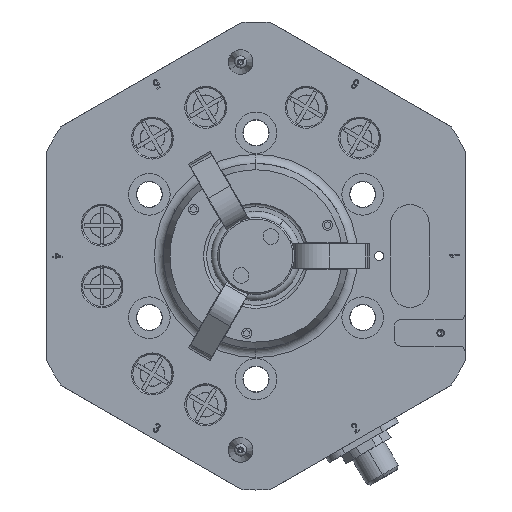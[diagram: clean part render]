
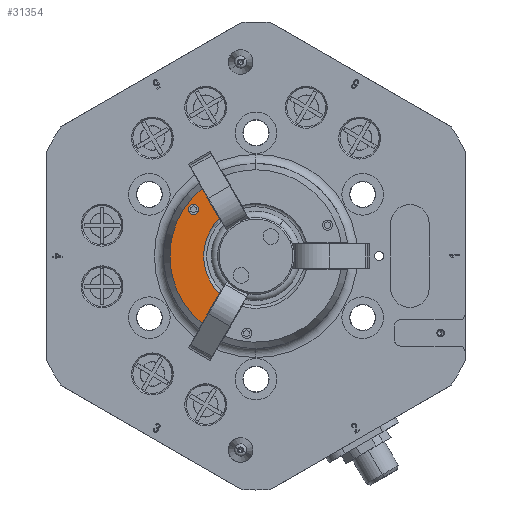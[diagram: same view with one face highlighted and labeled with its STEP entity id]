
A CAD part, front view. The second image highlights one B-rep face of the part: STEP entity #31354.
In plain terms, the highlighted planar face has unit normal (0, -1, 0).
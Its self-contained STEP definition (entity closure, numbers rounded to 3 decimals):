
#3421 = CARTESIAN_POINT ( 'NONE',  ( 0., -33.5, 0. ) ) ;
#3943 = EDGE_CURVE ( 'NONE', #35826, #40087, #20648, .T. ) ;
#4173 = DIRECTION ( 'NONE',  ( 0., -1., 0. ) ) ;
#5696 = CARTESIAN_POINT ( 'NONE',  ( -11.911, -33.5, -12.13 ) ) ;
#8465 = DIRECTION ( 'NONE',  ( 0., 0., -1. ) ) ;
#8647 = VERTEX_POINT ( 'NONE', #68080 ) ;
#9544 = CIRCLE ( 'NONE', #48913, 1.65 ) ;
#10273 = CIRCLE ( 'NONE', #49638, 17. ) ;
#11023 = DIRECTION ( 'NONE',  ( 0., 0., -1. ) ) ;
#13274 = CARTESIAN_POINT ( 'NONE',  ( -20.288, -33.5, 16.783 ) ) ;
#14909 = DIRECTION ( 'NONE',  ( 0., -1., 0. ) ) ;
#16607 = CARTESIAN_POINT ( 'NONE',  ( -11.911, -33.5, 12.13 ) ) ;
#16849 = ORIENTED_EDGE ( 'NONE', *, *, #46202, .F. ) ;
#17982 = VERTEX_POINT ( 'NONE', #53511 ) ;
#18332 = ORIENTED_EDGE ( 'NONE', *, *, #66053, .F. ) ;
#18342 = AXIS2_PLACEMENT_3D ( 'NONE', #3421, #24895, #46376 ) ;
#19077 = LINE ( 'NONE', #40597, #40210 ) ;
#20194 = FACE_OUTER_BOUND ( 'NONE', #40449, .T. ) ;
#20648 = CIRCLE ( 'NONE', #59970, 1.65 ) ;
#22457 = VERTEX_POINT ( 'NONE', #16607 ) ;
#22957 = ORIENTED_EDGE ( 'NONE', *, *, #57058, .F. ) ;
#22974 = VERTEX_POINT ( 'NONE', #34731 ) ;
#24895 = DIRECTION ( 'NONE',  ( 0., -1., 0. ) ) ;
#25658 = DIRECTION ( 'NONE',  ( 0., 0., -1. ) ) ;
#27188 = DIRECTION ( 'NONE',  ( -0.5, 0., -0.866 ) ) ;
#31236 = EDGE_LOOP ( 'NONE', ( #69562, #22957 ) ) ;
#31354 = ADVANCED_FACE ( 'NONE', ( #68423, #20194 ), #41687, .T. ) ;
#34731 = CARTESIAN_POINT ( 'NONE',  ( -17.517, -33.5, 21.841 ) ) ;
#35090 = ORIENTED_EDGE ( 'NONE', *, *, #46065, .F. ) ;
#35226 = CARTESIAN_POINT ( 'NONE',  ( -20.288, -33.5, 15.133 ) ) ;
#35826 = VERTEX_POINT ( 'NONE', #55978 ) ;
#36406 = DIRECTION ( 'NONE',  ( 0., 0., -1. ) ) ;
#37329 = EDGE_CURVE ( 'NONE', #22974, #17982, #48730, .T. ) ;
#37808 = CARTESIAN_POINT ( 'NONE',  ( -20.288, -33.5, 15.133 ) ) ;
#40087 = VERTEX_POINT ( 'NONE', #13274 ) ;
#40210 = VECTOR ( 'NONE', #62020, 1000. ) ;
#40449 = EDGE_LOOP ( 'NONE', ( #35090, #43847, #16849, #18332 ) ) ;
#40597 = CARTESIAN_POINT ( 'NONE',  ( -11.911, -33.5, 12.13 ) ) ;
#41687 = PLANE ( 'NONE',  #65978 ) ;
#43847 = ORIENTED_EDGE ( 'NONE', *, *, #37329, .T. ) ;
#46065 = EDGE_CURVE ( 'NONE', #22974, #22457, #19077, .T. ) ;
#46202 = EDGE_CURVE ( 'NONE', #8647, #17982, #53918, .T. ) ;
#46376 = DIRECTION ( 'NONE',  ( 0., 0., -1. ) ) ;
#48076 = VECTOR ( 'NONE', #27188, 1000. ) ;
#48730 = CIRCLE ( 'NONE', #18342, 27.998 ) ;
#48913 = AXIS2_PLACEMENT_3D ( 'NONE', #35226, #56699, #8465 ) ;
#49638 = AXIS2_PLACEMENT_3D ( 'NONE', #51441, #4173, #25658 ) ;
#51441 = CARTESIAN_POINT ( 'NONE',  ( 0., -33.5, 0. ) ) ;
#53511 = CARTESIAN_POINT ( 'NONE',  ( -17.517, -33.5, -21.841 ) ) ;
#53918 = LINE ( 'NONE', #5696, #48076 ) ;
#55978 = CARTESIAN_POINT ( 'NONE',  ( -20.288, -33.5, 13.483 ) ) ;
#56699 = DIRECTION ( 'NONE',  ( 0., -1., 0. ) ) ;
#57058 = EDGE_CURVE ( 'NONE', #40087, #35826, #9544, .T. ) ;
#59248 = DIRECTION ( 'NONE',  ( 0., -1., 0. ) ) ;
#59970 = AXIS2_PLACEMENT_3D ( 'NONE', #37808, #59248, #11023 ) ;
#62020 = DIRECTION ( 'NONE',  ( 0.5, 0., -0.866 ) ) ;
#63125 = CARTESIAN_POINT ( 'NONE',  ( 0., -33.5, 0. ) ) ;
#65978 = AXIS2_PLACEMENT_3D ( 'NONE', #63125, #14909, #36406 ) ;
#66053 = EDGE_CURVE ( 'NONE', #22457, #8647, #10273, .T. ) ;
#68080 = CARTESIAN_POINT ( 'NONE',  ( -11.911, -33.5, -12.13 ) ) ;
#68423 = FACE_BOUND ( 'NONE', #31236, .T. ) ;
#69562 = ORIENTED_EDGE ( 'NONE', *, *, #3943, .F. ) ;
